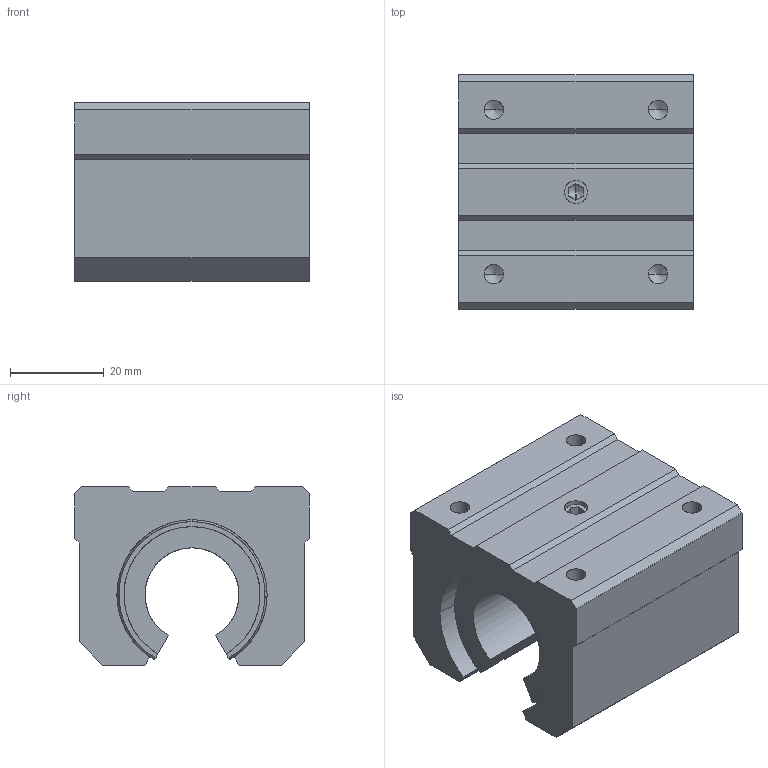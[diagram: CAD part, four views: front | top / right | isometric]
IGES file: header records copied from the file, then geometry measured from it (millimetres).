
Global section: file name: No Iges File Name specified; native system: AutoDesk Inventor R10; preprocessor: AutoDesk Inventor Iges Exporter R10; author: No Author specified; organization: No Organization specified; date: 20101221.091412; units: millimetre
Bounding box: 50 x 50 x 38 mm (x, y, z)
Surface area: 15606.5 mm2 (no closed solid volume)
Topology: 0 solids, 0 shells, 94 faces, 608 edges, 598 vertices
Faces by surface type: bspline 94
